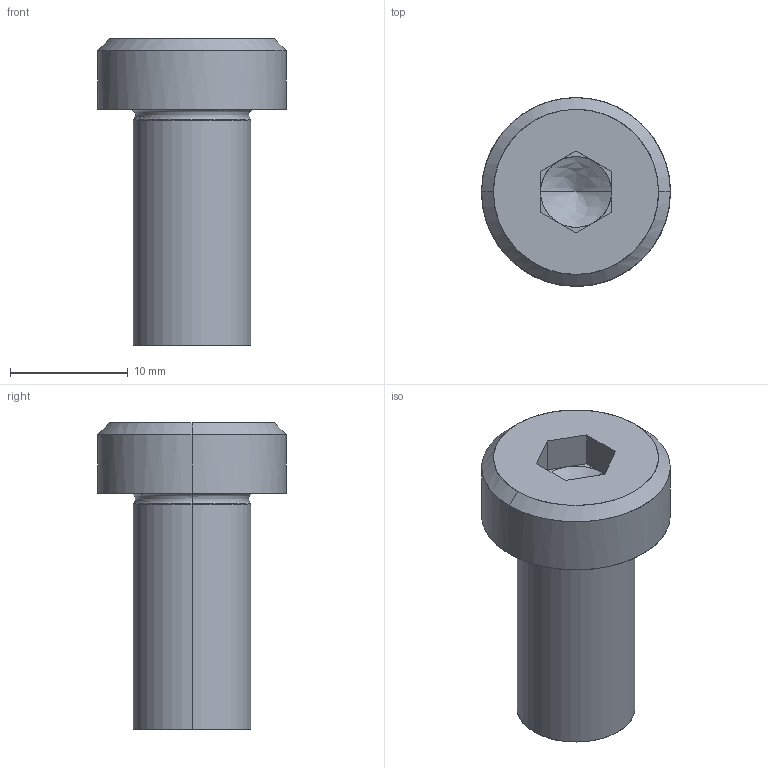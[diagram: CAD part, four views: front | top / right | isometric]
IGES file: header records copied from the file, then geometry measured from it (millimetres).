
Global section: file name: E:\UnigraphicsGraphicData\MISUMI_PRESS-PARTS\IGES\3d_sbtcn10-20_05126_r00.igs; native system: NX V5.0; preprocessor: UGS NX IGES V5.0; author: MISUMI; date: 20110105.162450; units: millimetre
Bounding box: 16 x 16 x 26 mm (x, y, z)
Surface area: 1687 mm2 (no closed solid volume)
Topology: 0 solids, 0 shells, 34 faces, 180 edges, 176 vertices
Faces by surface type: bspline 34
